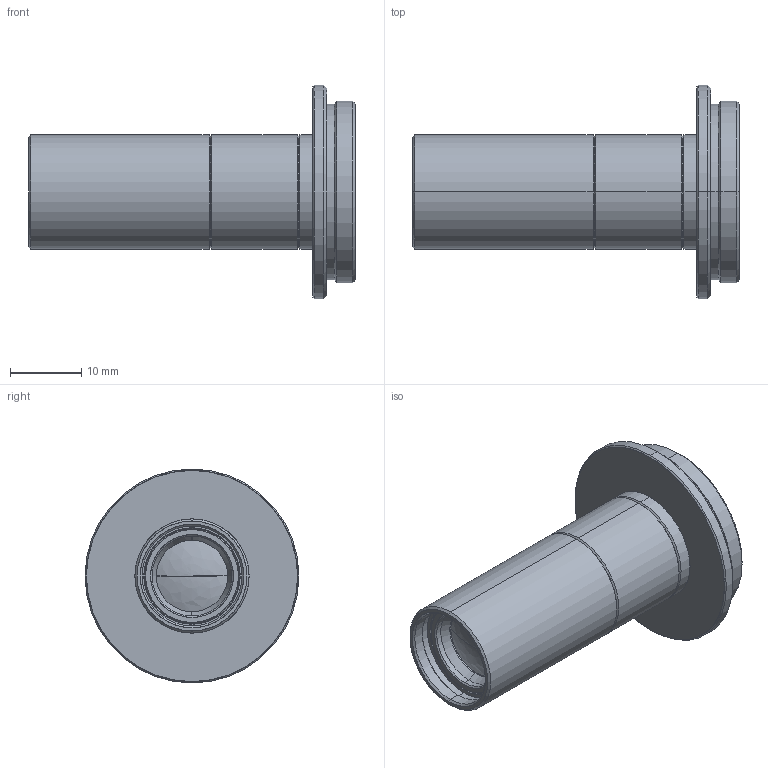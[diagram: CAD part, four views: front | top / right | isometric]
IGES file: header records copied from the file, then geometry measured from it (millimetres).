
Start section: SolidWorks IGES file using analytic representation for surfaces
Global section: file name: \\192.168.200.11\Development\01 マクロレンズ\02 VS-MC series\03 ノンテレマクロ\075 VS-MC075-50\作成中_3D\MC075-50.IGS; native system: SolidWorks 2014; preprocessor: SolidWorks 2014; author: gijutu-1; date: 140627.131351; units: millimetre
Bounding box: 45.83 x 30 x 30 mm (x, y, z)
Surface area: 5342.8 mm2 (no closed solid volume)
Topology: 0 solids, 0 shells, 100 faces, 1192 edges, 1190 vertices
Faces by surface type: revolution 88, bspline 12
